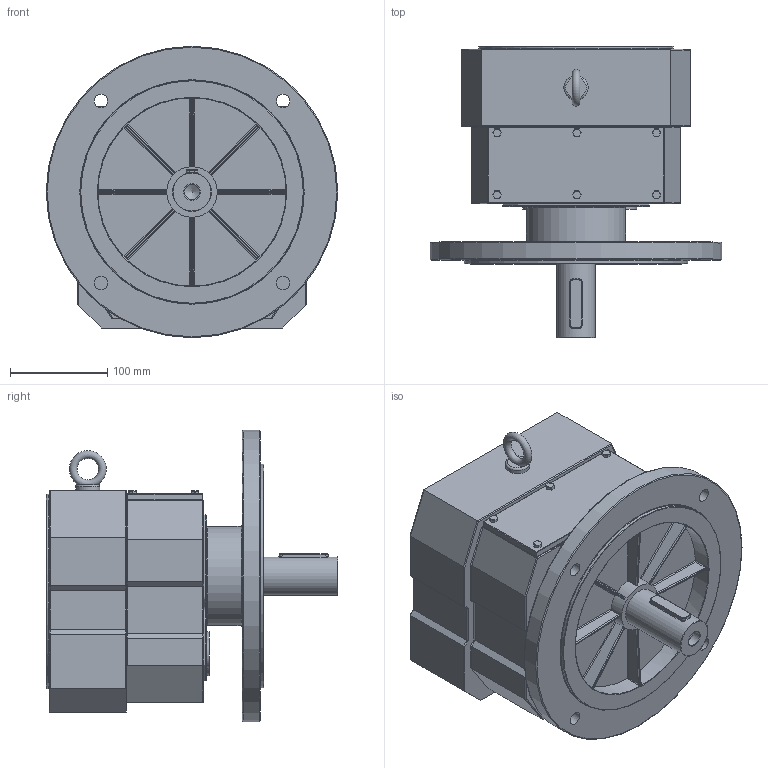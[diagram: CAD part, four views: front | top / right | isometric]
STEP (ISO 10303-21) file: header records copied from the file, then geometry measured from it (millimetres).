
FILE_DESCRIPTION((''),'2;1');
FILE_NAME('D:\PAWEŁ\ZLECENIA\2011 DualSystem\Przekładnie DR\DR70\STEP\DRF70_fi 300.stp','2012-06-11T12:10:35',('admin'),(''),'Autodesk Inventor 2009','Autodesk Inventor 2009','');
FILE_SCHEMA(('AUTOMOTIVE_DESIGN { 1 0 10303 214 1 1 1 1 }'));
Length unit declared in the file: millimetre
Products named in the file (1): DRF70_fi 300
Bounding box: 300 x 300 x 300 mm (x, y, z)
Volume: 9039046.7 mm3; surface area: 472664.6 mm2
Topology: 2 solids, 2 shells, 504 faces, 1206 edges, 682 vertices
Faces by surface type: cylinder 231, plane 165, sphere 44, bspline 43, torus 21
Full cylindrical faces by diameter (mm): 25 x1, 30 x1, 40 x1, 41 x1, 45 x1, 52 x1, 102 x1, 160 x1, 194 x1, 200 x1, 230 x1, 300 x1
Entity records: 16830 total; most frequent: CARTESIAN_POINT 5243, DIRECTION 2486, ORIENTED_EDGE 2256, EDGE_CURVE 1128, AXIS2_PLACEMENT_3D 939, VERTEX_POINT 673, VECTOR 608, LINE 608
